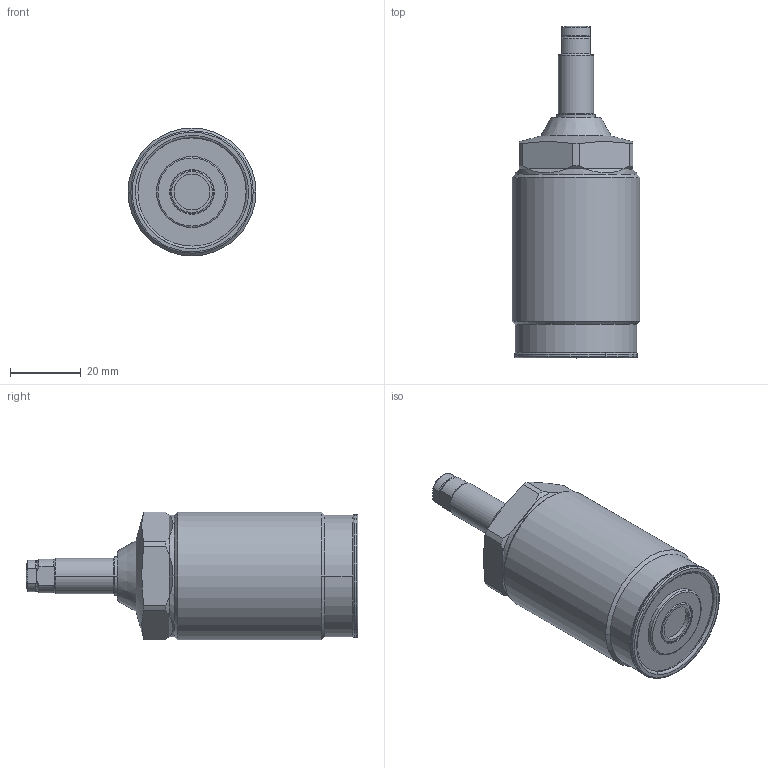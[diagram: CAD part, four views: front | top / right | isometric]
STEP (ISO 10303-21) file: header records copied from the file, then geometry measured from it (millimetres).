
FILE_DESCRIPTION(/* description */ (''),/* implementation_level */ '2;1');
FILE_NAME(/* name */ 'TNE36-Q.stp',/* time_stamp */ '2025-01-09T15:45:19+08:00',/* author */ (''),/* organization */ (''),/* preprocessor_version */ 'ST-DEVELOPER v16.7',/* originating_system */ 'SIEMENS PLM Software NX 12.0',/* authorisation */ '');
FILE_SCHEMA (('AUTOMOTIVE_DESIGN { 1 0 10303 214 3 1 1 1 }'));
Length unit declared in the file: millimetre
Products named in the file (6): TNE36-Q-01; TNE36-Q-5; TNE36-Q-3; TNE36-Q-2; TNE36-Q-1; TNE36-Q_stp
Assembly tree (5 placements, depth 2):
  TNE36-Q_stp
    TNE36-Q-1
    TNE36-Q-2
    TNE36-Q-3
    TNE36-Q-5
    TNE36-Q-01
Bounding box: 36 x 93.5 x 36 mm (x, y, z)
Volume: 62637 mm3; surface area: 11072.9 mm2
Topology: 5 solids, 5 shells, 137 faces, 299 edges, 179 vertices
Faces by surface type: cylinder 44, plane 34, torus 32, cone 25, sphere 2
Full cylindrical faces by diameter (mm): 34.2 x1, 36 x1
Entity records: 4046 total; most frequent: CARTESIAN_POINT 832, DIRECTION 726, ORIENTED_EDGE 588, AXIS2_PLACEMENT_3D 323, EDGE_CURVE 294, VERTEX_POINT 179, CIRCLE 174, EDGE_LOOP 155
